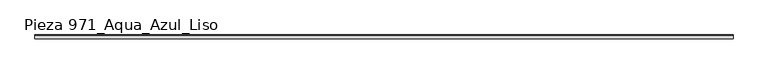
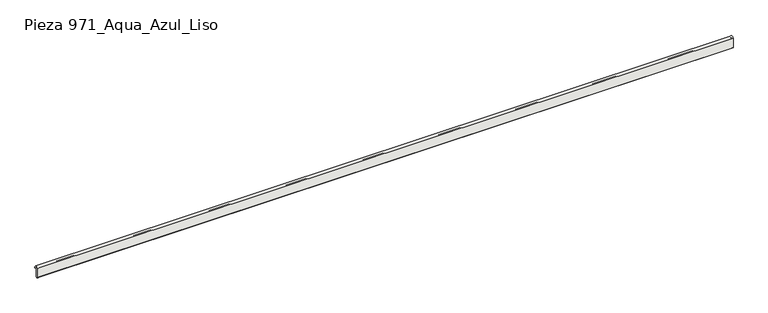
"""IFC4 building model written with IfcOpenShell, lengths in millimetres: slab geometry, ROSA GRES_971 : Pieza 971_Aqua_Azul_Liso."""

import ifcopenshell
import ifcopenshell.guid

model = None  # the IFC model being written
_history = None  # IfcOwnerHistory: only IFC2X3 demands one
_inside = {}  # id of a spatial element -> (the spatial element, [elements in it])
_under = {}  # id of a project, library or spatial element -> (it, [spatial elements below it])
_declared = {}  # id of a project -> (the project, [libraries it declares])
_typed = {}  # id of a type object -> (the type object, [elements of that type])
_made_of = {}  # id of a material, layer set ... -> (it, [elements and type objects made of it])


def new_model(schema):
    """Start an empty IFC model of exactly this schema.

    Asked for "IFC4X3", IfcOpenShell would pick the latest addendum, in which some entities
    have other attributes; the version numbers below select the first issue.
    IFC2X3 requires an IfcOwnerHistory on every rooted entity: one is made here for all.
    """
    global model, _history
    if schema == "IFC4X3":
        model = ifcopenshell.file(schema_version=(4, 3, 0, 0))
    else:
        model = ifcopenshell.file(schema=schema)
    _inside.clear()
    _under.clear()
    _declared.clear()
    _typed.clear()
    _made_of.clear()
    _history = None
    if model.schema == "IFC2X3":
        org = make("IfcOrganization", Name="unknown")
        user = make(
            "IfcPersonAndOrganization",
            ThePerson=make("IfcPerson", FamilyName="unknown"),
            TheOrganization=org,
        )
        app = make(
            "IfcApplication",
            ApplicationDeveloper=org,
            Version="unknown",
            ApplicationFullName="unknown",
            ApplicationIdentifier="unknown",
        )
        _history = make(
            "IfcOwnerHistory",
            OwningUser=user,
            OwningApplication=app,
            ChangeAction="ADDED",
            CreationDate=0,
        )
    return model


def make(cls, **values):
    """One entity of the class cls with the attributes given. An attribute that is None is left unset."""
    return model.create_entity(
        cls, **{name: value for name, value in values.items() if value is not None}
    )


def rooted(cls, **values):
    """An entity with a GlobalId (a new one), such as an element, a storey or a relation."""
    return make(cls, GlobalId=ifcopenshell.guid.new(), OwnerHistory=_history, **values)


def si_unit(unit_type, name, prefix=None):
    """IfcSIUnit, for example si_unit("LENGTHUNIT", "METRE", prefix="MILLI")."""
    return make("IfcSIUnit", UnitType=unit_type, Prefix=prefix, Name=name)


def assignment(units):
    """IfcUnitAssignment: the units of a project."""
    return None if units is None else make("IfcUnitAssignment", Units=units)


def point(xyz):
    """IfcCartesianPoint."""
    return None if xyz is None else make("IfcCartesianPoint", Coordinates=xyz)


def direction(xyz):
    """IfcDirection."""
    return None if xyz is None else make("IfcDirection", DirectionRatios=xyz)


def frame(location, z_axis=None, x_axis=None):
    """IfcAxis2Placement3D, a coordinate frame: its origin and axes. An axis left out is left unset."""
    return make(
        "IfcAxis2Placement3D",
        Location=point(location),
        Axis=direction(z_axis),
        RefDirection=direction(x_axis),
    )


def frame_2d(location, x_axis=None):
    """IfcAxis2Placement2D, a coordinate frame in the plane: its origin and x axis."""
    return make(
        "IfcAxis2Placement2D", Location=point(location), RefDirection=direction(x_axis)
    )


def origin():
    """The frame at (0, 0, 0) with its axes left unset."""
    return frame((0.0, 0.0, 0.0))


def place(relative_to, where):
    """IfcLocalPlacement: puts the frame where relative to a parent placement (None: the world)."""
    return make(
        "IfcLocalPlacement", PlacementRelTo=relative_to, RelativePlacement=where
    )


def context(
    kind, dimensions, precision=None, world=None, true_north=None, identifier=None
):
    """IfcGeometricRepresentationContext, for example the 3D "Model" context."""
    return make(
        "IfcGeometricRepresentationContext",
        ContextIdentifier=identifier,
        ContextType=kind,
        CoordinateSpaceDimension=dimensions,
        Precision=precision,
        WorldCoordinateSystem=world,
        TrueNorth=true_north,
    )


def project(units=None, contexts=None):
    """IfcProject with its units and contexts."""
    return rooted(
        "IfcProject",
        Name="project",
        RepresentationContexts=contexts,
        UnitsInContext=assignment(units),
    )


def spatial(cls, under=None, at=None, **own):
    """A site, building, storey or space (cls), placed at a placement, below another one or the project."""
    s = rooted(cls, ObjectPlacement=at, **own)
    if under is not None:
        _under.setdefault(under.id(), (under, []))[1].append(s)
    return s


def polyline(points):
    """IfcPolyline through the points."""
    return make("IfcPolyline", Points=[point(p) for p in points])


def circle_curve(where, radius):
    """IfcCircle in the frame where."""
    return make("IfcCircle", Position=where, Radius=radius)


def trimmed(basis, trim1, trim2, sense, master):
    """IfcTrimmedCurve: the piece of a basis curve between two trims."""
    return make(
        "IfcTrimmedCurve",
        BasisCurve=basis,
        Trim1=trim1,
        Trim2=trim2,
        SenseAgreement=sense,
        MasterRepresentation=master,
    )


def segment(curve, same_sense, transition):
    """IfcCompositeCurveSegment."""
    return make(
        "IfcCompositeCurveSegment",
        Transition=transition,
        SameSense=same_sense,
        ParentCurve=curve,
    )


def composite_curve(segments, self_intersect=None):
    """IfcCompositeCurve: segments joined end to end."""
    return make("IfcCompositeCurve", Segments=segments, SelfIntersect=self_intersect)


def outline(outer, holes=None, kind="AREA"):
    """IfcArbitraryClosedProfileDef: a profile drawn as a closed curve; with holes, ...WithVoids."""
    if holes is None:
        return make("IfcArbitraryClosedProfileDef", ProfileType=kind, OuterCurve=outer)
    return make(
        "IfcArbitraryProfileDefWithVoids",
        ProfileType=kind,
        OuterCurve=outer,
        InnerCurves=holes,
    )


def extrude(swept, where, along, depth):
    """IfcExtrudedAreaSolid: the profile swept, set in the frame where, extruded along a direction by depth."""
    return make(
        "IfcExtrudedAreaSolid",
        SweptArea=swept,
        Position=where,
        ExtrudedDirection=direction(along),
        Depth=depth,
    )


def shape(context_of_items, identifier, shape_type, items):
    """IfcShapeRepresentation: the items that make up one representation, for example the "Body"."""
    return make(
        "IfcShapeRepresentation",
        ContextOfItems=context_of_items,
        RepresentationIdentifier=identifier,
        RepresentationType=shape_type,
        Items=items,
    )


def source(mapping_origin, context_of_items, identifier, shape_type, items):
    """IfcRepresentationMap: a shape defined once, which mapped items show again and again."""
    return make(
        "IfcRepresentationMap",
        MappingOrigin=mapping_origin,
        MappedRepresentation=shape(context_of_items, identifier, shape_type, items),
    )


def transform(
    local_origin,
    x_axis=None,
    y_axis=None,
    z_axis=None,
    scale=None,
    scale2=None,
    scale3=None,
    uniform=True,
):
    """IfcCartesianTransformationOperator3D, or its non-uniform kind. x_axis, y_axis, z_axis: its Axis1, 2, 3."""
    if uniform:
        return make(
            "IfcCartesianTransformationOperator3D",
            Axis1=direction(x_axis),
            Axis2=direction(y_axis),
            LocalOrigin=point(local_origin),
            Scale=scale,
            Axis3=direction(z_axis),
        )
    return make(
        "IfcCartesianTransformationOperator3DnonUniform",
        Axis1=direction(x_axis),
        Axis2=direction(y_axis),
        LocalOrigin=point(local_origin),
        Scale=scale,
        Axis3=direction(z_axis),
        Scale2=scale2,
        Scale3=scale3,
    )


def mapped(mapping_source, mapping_target):
    """IfcMappedItem: shows the shape of a source again, moved by a transform."""
    return make(
        "IfcMappedItem", MappingSource=mapping_source, MappingTarget=mapping_target
    )


def made_of(thing, what):
    """Note that an element or type object is made of a material, layer set ...; save() writes the relation."""
    if what is not None:
        _made_of.setdefault(what.id(), (what, []))[1].append(thing)
    return thing


def element(
    cls,
    number,
    at=None,
    inside=None,
    cuts=None,
    type_object=None,
    material=None,
    context=None,
    identifier="Body",
    shape_type=None,
    held_by="IfcProductDefinitionShape",
    body=None,
    shapes=None,
    **own,
):
    """One element of the class cls, such as IfcWall. Its Tag is "e" and its number.

    at: its placement. inside: the storey or other place that contains it. cuts: it is an
    opening in that element (IfcRelVoidsElement). A single representation is given by context,
    identifier, shape_type and body (its items); several are given by shapes. held_by: the class
    of the entity that holds the representations. save() writes the other relations.
    """
    e = rooted(cls, Tag="e%d" % number, ObjectPlacement=at, **own)
    if body is not None:
        shapes = [shape(context, identifier, shape_type, body)]
    if shapes is not None:
        e.Representation = make(held_by, Representations=shapes)
    if inside is not None:
        _inside.setdefault(inside.id(), (inside, []))[1].append(e)
    if cuts is not None:
        rooted(
            "IfcRelVoidsElement", RelatingBuildingElement=cuts, RelatedOpeningElement=e
        )
    if type_object is not None:
        _typed.setdefault(type_object.id(), (type_object, []))[1].append(e)
    return made_of(e, material)


def aggregate(whole, parts):
    """IfcRelAggregates: a whole, such as a stair, and the parts it consists of."""
    return rooted("IfcRelAggregates", RelatingObject=whole, RelatedObjects=parts)


def save(model, path):
    """Write the relations noted so far, then the file.

    IfcRelAggregates (storeys below a building ...), IfcRelContainedInSpatialStructure (elements
    in a storey), IfcRelDefinesByType, IfcRelAssociatesMaterial and IfcRelDeclares: one each for
    every whole, place, type object, material and project.
    """
    for whole, parts in _under.values():
        aggregate(whole, parts)
    for where, things in _inside.values():
        rooted(
            "IfcRelContainedInSpatialStructure",
            RelatedElements=things,
            RelatingStructure=where,
        )
    for kind, things in _typed.values():
        rooted("IfcRelDefinesByType", RelatedObjects=things, RelatingType=kind)
    for what, things in _made_of.values():
        rooted("IfcRelAssociatesMaterial", RelatedObjects=things, RelatingMaterial=what)
    for by, libraries in _declared.values():
        rooted("IfcRelDeclares", RelatingContext=by, RelatedDefinitions=libraries)
    model.write(path)


def pieza_971_aqua_azul_liso_f4afc6d7(model_context):
    return source(origin(), model_context, "Body", "SweptSolid", [
        extrude(outline(composite_curve([segment(polyline([(31.1851409, 153.6242825), (39.9975962, 139.9882747), (39.9975962, 128.1510212), (28.5599154, 128.1510212), (22.7114874, 137.4414839)]), True, "CONTINUOUS"), segment(trimmed(circle_curve(frame_2d((18.761148, 135.3324983)), 4.4780578), [point((22.7114874, 137.4414839))], [point((14.3481673, 136.0931579))], True, "CARTESIAN"), True, "CONTINUOUS"), segment(polyline([(14.3481673, 136.0931579), (14.3481673, 113.5290116)]), True, "CONTINUOUS"), segment(trimmed(circle_curve(frame_2d((21.3613471, 107.0507801)), 9.5473648), [point((14.3481673, 113.5290116))], [point((14.9166636, 100.0067593))], True, "CARTESIAN"), True, "CONTINUOUS"), segment(polyline([(14.9166636, 100.0067593), (14.9166636, 88.7017059)]), True, "CONTINUOUS"), segment(trimmed(circle_curve(frame_2d((21.3511036, 81.7801218)), 9.450415), [point((14.9166636, 88.7017059))], [point((14.9614723, 74.8171516))], True, "CARTESIAN"), True, "CONTINUOUS"), segment(polyline([(14.9614723, 74.8171516), (14.9614723, 63.5120982)]), True, "CONTINUOUS"), segment(trimmed(circle_curve(frame_2d((21.3959123, 56.5905141)), 9.450415), [point((14.9614723, 63.5120982))], [point((15.0062809, 49.6275439))], True, "CARTESIAN"), True, "CONTINUOUS"), segment(polyline([(15.0062809, 49.6275439), (15.0062809, 41.3450913), (2.68, 41.3450913)]), True, "CONTINUOUS"), segment(trimmed(circle_curve(frame_2d((2.68, 44.0250913)), 2.68), [point((2.68, 41.3450913))], [point((0.0, 44.0250913))], False, "CARTESIAN"), True, "CONTINUOUS"), segment(polyline([(0.0, 44.0250913), (0.0, 146.1331033)]), True, "CONTINUOUS"), segment(trimmed(circle_curve(frame_2d((16.8529233, 144.6319512)), 16.9196478), [point((0.0, 146.1331033))], [point((31.1851409, 153.6242825))], False, "CARTESIAN"), True, "CONTINUOUS")], self_intersect=False)), frame((0.0, 0.0, 0.0), z_axis=(1.0, 0.0, 0.0), x_axis=(0.0, 1.0, 0.0)), (0.0, 0.0, 1.0), 7410.0),
    ])


if __name__ == "__main__":
    model = new_model("IFC4")
    model_context = context("Model", 3, world=origin())
    ifc_project = project(units=[si_unit("LENGTHUNIT", "METRE", prefix="MILLI")], contexts=[model_context])
    site = spatial("IfcSite", under=ifc_project)
    building = spatial("IfcBuilding", under=site)
    placement = place(None, origin())
    pieza_971_aqua_azul_liso_shape = pieza_971_aqua_azul_liso_f4afc6d7(model_context)
    element("IfcSlab", 1, ObjectType="ROSA GRES_971 : Pieza 971_Aqua_Azul_Liso", at=placement, inside=building, context=model_context, shape_type="MappedRepresentation", body=[
        mapped(pieza_971_aqua_azul_liso_shape, transform((0.0, 0.0, 0.0), x_axis=(1.0, 0.0, 0.0), y_axis=(0.0, 1.0, 0.0), z_axis=(0.0, 0.0, 1.0))),
    ])
    save(model, "model.ifc")
